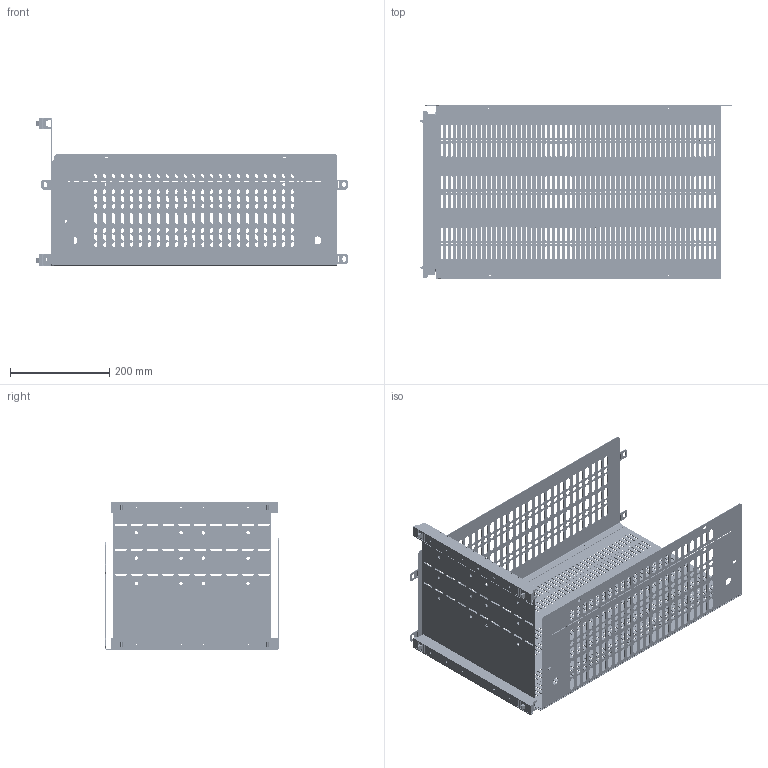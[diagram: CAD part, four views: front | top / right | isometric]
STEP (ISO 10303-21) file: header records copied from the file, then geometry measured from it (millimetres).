
FILE_DESCRIPTION (( 'STEP AP203' ), '1' );
FILE_NAME ('04925.STEP', '2018-01-04T14:59:37', ( '' ), ( '' ), 'SwSTEP 2.0', 'SolidWorks 2015', '' );
FILE_SCHEMA (( 'CONFIG_CONTROL_DESIGN' ));
Length unit declared in the file: millimetre
Products named in the file (6): t犨e 3; t犨e 2; t犨e 1; plaque plastique 1; barre plastique 2; 04925
Assembly tree (6 placements, depth 2):
  04925
    t犨e 3
    t犨e 2
    t犨e 1
    plaque plastique 1
    barre plastique 2  x2
Bounding box: 628.49 x 350 x 300 mm (x, y, z)
Volume: 757600.2 mm3; surface area: 1115828.8 mm2
Topology: 8 solids, 8 shells, 3879 faces, 11435 edges, 7618 vertices
Faces by surface type: cylinder 2197, plane 1682
Entity records: 128469 total; most frequent: DIRECTION 22505, CARTESIAN_POINT 21750, ORIENTED_EDGE 21706, EDGE_CURVE 10853, AXIS2_PLACEMENT_3D 7985, VERTEX_POINT 7230, VECTOR 6535, LINE 6535
